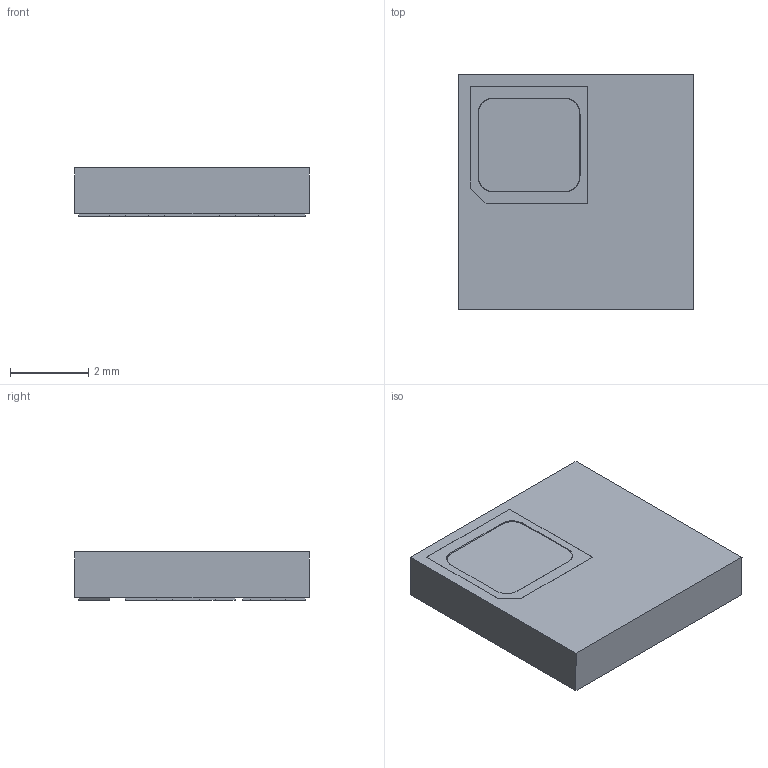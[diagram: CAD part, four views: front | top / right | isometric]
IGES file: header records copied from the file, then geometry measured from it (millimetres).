
Start section: 3D InterOp IGES (Version 20 0 3), Spatial Corp. Copyright (c) 1999-2007.
Global section: file name: A3E-THG_090823.igs; native system: Spatial Corp.; preprocessor: 3D InterOp ACIS/IGES; author: Noname; organization: Noname; date: 20240425.121727; units: millimetre
Bounding box: 6 x 6 x 1.23 mm (x, y, z)
Surface area: 116.6 mm2 (no closed solid volume)
Topology: 0 solids, 0 shells, 183 faces, 956 edges, 956 vertices
Faces by surface type: extrusion 159, revolution 24
